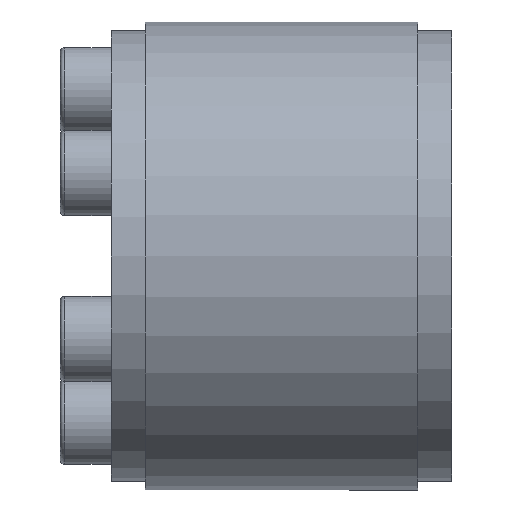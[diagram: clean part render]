
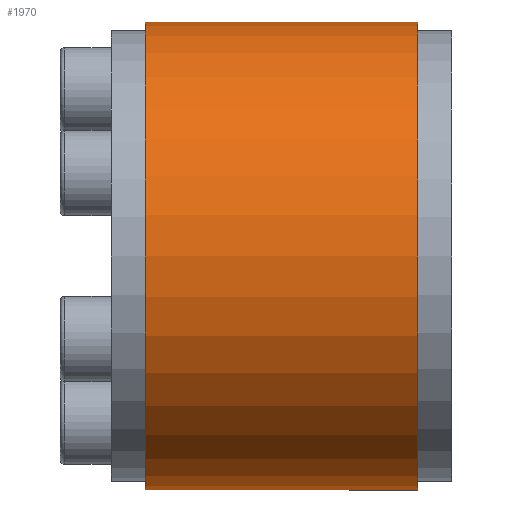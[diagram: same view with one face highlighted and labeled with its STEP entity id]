
A CAD part, left-side view. The second image highlights one B-rep face of the part: STEP entity #1970.
In plain terms, the highlighted cylindrical face has radius 27.5 mm (diameter 55 mm), a partial arc.
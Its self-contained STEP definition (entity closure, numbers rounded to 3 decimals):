
#39 = DIRECTION ( 'NONE',  ( 0., -1., 0. ) ) ;
#231 = CIRCLE ( 'NONE', #1002, 27.5 ) ;
#304 = VECTOR ( 'NONE', #732, 1000. ) ;
#330 = CARTESIAN_POINT ( 'NONE',  ( 0., 0., 0. ) ) ;
#378 = EDGE_CURVE ( 'NONE', #490, #1634, #231, .T. ) ;
#479 = VERTEX_POINT ( 'NONE', #509 ) ;
#489 = AXIS2_PLACEMENT_3D ( 'NONE', #330, #1838, #717 ) ;
#490 = VERTEX_POINT ( 'NONE', #1266 ) ;
#509 = CARTESIAN_POINT ( 'NONE',  ( 0., -16., -27.5 ) ) ;
#684 = AXIS2_PLACEMENT_3D ( 'NONE', #790, #39, #1373 ) ;
#698 = ORIENTED_EDGE ( 'NONE', *, *, #1450, .F. ) ;
#717 = DIRECTION ( 'NONE',  ( 0., 0., -1. ) ) ;
#732 = DIRECTION ( 'NONE',  ( 0., -1., 0. ) ) ;
#774 = DIRECTION ( 'NONE',  ( 0., -1., 0. ) ) ;
#790 = CARTESIAN_POINT ( 'NONE',  ( 0., -16., 0. ) ) ;
#791 = VERTEX_POINT ( 'NONE', #1931 ) ;
#824 = DIRECTION ( 'NONE',  ( 0., 0., -1. ) ) ;
#965 = CARTESIAN_POINT ( 'NONE',  ( 0., 0., -27.5 ) ) ;
#1002 = AXIS2_PLACEMENT_3D ( 'NONE', #2135, #2305, #824 ) ;
#1086 = EDGE_LOOP ( 'NONE', ( #2177, #2024, #2131, #698 ) ) ;
#1266 = CARTESIAN_POINT ( 'NONE',  ( 0., 16., 27.5 ) ) ;
#1277 = EDGE_CURVE ( 'NONE', #1634, #479, #2444, .T. ) ;
#1285 = CYLINDRICAL_SURFACE ( 'NONE', #489, 27.5 ) ;
#1373 = DIRECTION ( 'NONE',  ( 0., 0., -1. ) ) ;
#1450 = EDGE_CURVE ( 'NONE', #791, #479, #2218, .T. ) ;
#1509 = CARTESIAN_POINT ( 'NONE',  ( 0., 0., 27.5 ) ) ;
#1634 = VERTEX_POINT ( 'NONE', #2195 ) ;
#1640 = FACE_OUTER_BOUND ( 'NONE', #1086, .T. ) ;
#1838 = DIRECTION ( 'NONE',  ( 0., -1., 0. ) ) ;
#1931 = CARTESIAN_POINT ( 'NONE',  ( 0., -16., 27.5 ) ) ;
#1947 = VECTOR ( 'NONE', #774, 1000. ) ;
#1970 = ADVANCED_FACE ( 'NONE', ( #1640 ), #1285, .T. ) ;
#2024 = ORIENTED_EDGE ( 'NONE', *, *, #378, .T. ) ;
#2039 = EDGE_CURVE ( 'NONE', #490, #791, #2183, .T. ) ;
#2131 = ORIENTED_EDGE ( 'NONE', *, *, #1277, .T. ) ;
#2135 = CARTESIAN_POINT ( 'NONE',  ( 0., 16., 0. ) ) ;
#2177 = ORIENTED_EDGE ( 'NONE', *, *, #2039, .F. ) ;
#2183 = LINE ( 'NONE', #1509, #304 ) ;
#2195 = CARTESIAN_POINT ( 'NONE',  ( 0., 16., -27.5 ) ) ;
#2218 = CIRCLE ( 'NONE', #684, 27.5 ) ;
#2305 = DIRECTION ( 'NONE',  ( 0., -1., 0. ) ) ;
#2444 = LINE ( 'NONE', #965, #1947 ) ;
